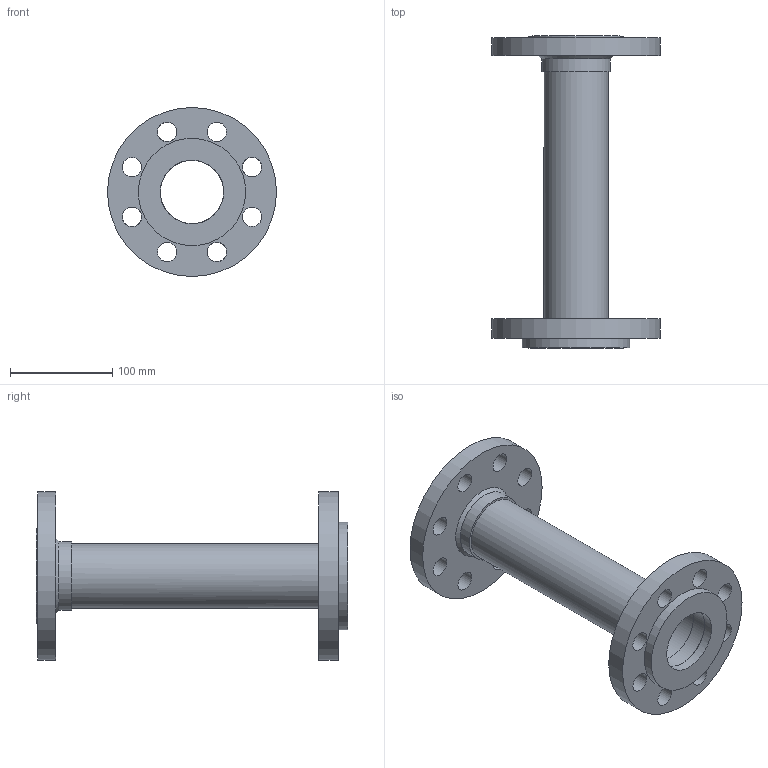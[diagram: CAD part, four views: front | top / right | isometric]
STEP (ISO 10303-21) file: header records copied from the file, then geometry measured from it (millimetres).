
FILE_DESCRIPTION(/* description */ (''),/* implementation_level */ '2;1');
FILE_NAME(/* name */ 'C:\001_Work\Designs\FFL2B-300\FFL2B-300-2x12.stp',/* time_stamp */ '2016-06-14T09:55:35-04:00',/* author */ ('rramoutar'),/* organization */ ('Mason Industries Inc.'),/* preprocessor_version */ 'ST-DEVELOPER v15.6',/* originating_system */ 'Autodesk Inventor 2015',/* authorisation */ '');
FILE_SCHEMA (('CONFIG_CONTROL_DESIGN'));
Length unit declared in the file: inch
Products named in the file (1): FFL2B-300-2x12
Bounding box: 165.1 x 304.8 x 165.1 mm (x, y, z)
Volume: 660831.2 mm3; surface area: 224394 mm2
Topology: 1 solids, 1 shells, 41 faces, 107 edges, 77 vertices
Faces by surface type: cylinder 27, plane 11, cone 3
Full cylindrical faces by diameter (mm): 19.05 x16, 61.912 x2, 61.976 x1, 62.687 x1, 67.45 x2, 71.438 x1, 92.075 x1, 104.775 x1, 165.1 x2
Entity records: 1133 total; most frequent: DIRECTION 198, CARTESIAN_POINT 156, EDGE_LOOP 114, ORIENTED_EDGE 114, AXIS2_PLACEMENT_3D 99, FACE_BOUND 73, CIRCLE 57, VERTEX_POINT 57
